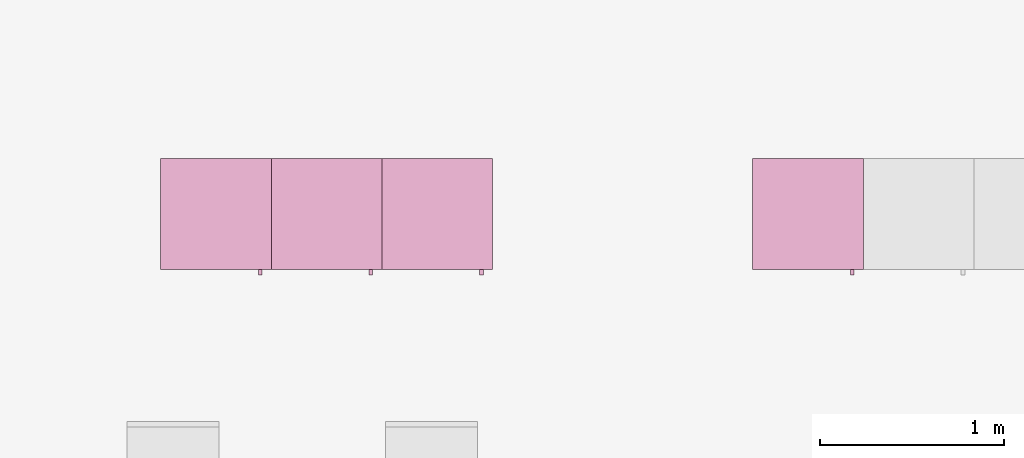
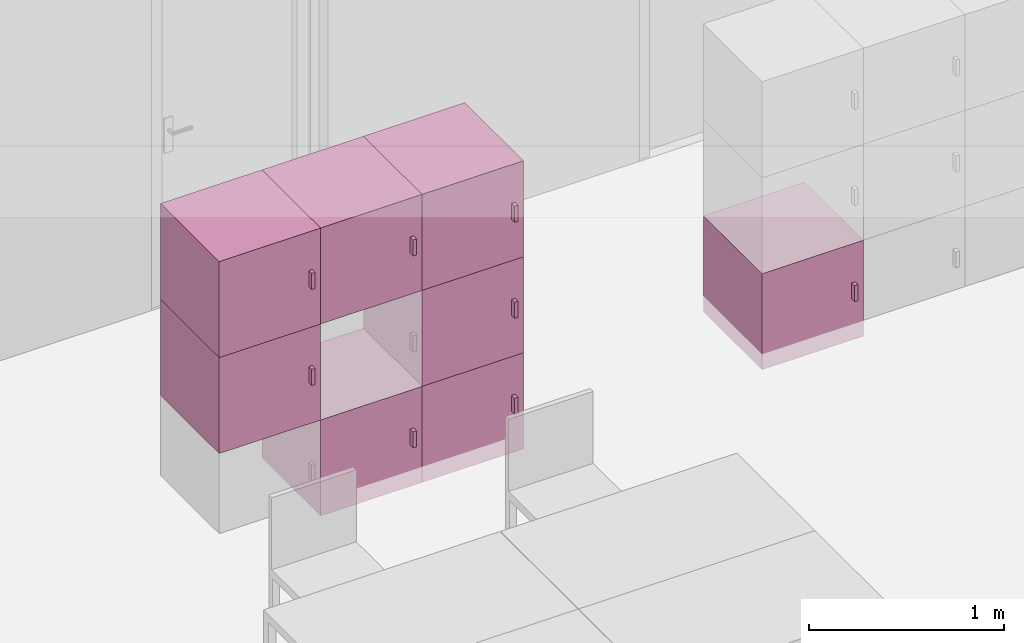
"""IFC4 building model written with IfcOpenShell, lengths in metres."""

from ifc_helpers import new_model, entity, si_unit, converted_unit, derived_unit, frame, origin, place, context, subcontext, project, spatial, faceted_brep, element, save


model = new_model("IFC4")

# Units and contexts
model_context = context("Model", 3, precision=1e-05, world=origin())
body_context = subcontext(model_context, "Body", "Model", "MODEL_VIEW")
ifc_project = project(units=[si_unit("LENGTHUNIT", "METRE"), si_unit("AREAUNIT", "SQUARE_METRE"), si_unit("VOLUMEUNIT", "CUBIC_METRE"), si_unit("MASSUNIT", "GRAM", prefix="KILO"), converted_unit("PLANEANGLEUNIT", "DEGREE", entity("IfcPlaneAngleMeasure", 0.0174532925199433), si_unit("PLANEANGLEUNIT", "RADIAN"), dimensions=[0, 0, 0, 0, 0, 0, 0]), derived_unit("THERMALTRANSMITTANCEUNIT", [(si_unit("POWERUNIT", "WATT"), 1), (si_unit("THERMODYNAMICTEMPERATUREUNIT", "KELVIN"), -1), (si_unit("LENGTHUNIT", "METRE"), -2)]), derived_unit("VOLUMETRICFLOWRATEUNIT", [(si_unit("LENGTHUNIT", "METRE"), 3), (converted_unit("TIMEUNIT", "hour", entity("IfcTimeMeasure", 3600.0), si_unit("TIMEUNIT", "SECOND"), dimensions=[0, 0, 1, 0, 0, 0, 0]), -1), (si_unit("LENGTHUNIT", "METRE"), -1)])], contexts=[model_context])

# Building, storeys
building_placement = place(None, origin())
building = spatial("IfcBuilding", under=ifc_project, at=building_placement, Name="HABITATGE PLURIFAMILIAR", CompositionType="ELEMENT")
storey_1_placement = place(building_placement, frame((0.0, 0.0, 15.28)))
storey_1 = spatial("IfcBuildingStorey", under=building, at=storey_1_placement, Name="PLANTA QUARTA", CompositionType="ELEMENT", Elevation=15.28)
storey_2_placement = place(storey_1_placement, frame((0.0, 0.0, 12.27)))
storey_2 = spatial("IfcBuildingStorey", under=storey_1, at=storey_2_placement, Name="NOU", CompositionType="PARTIAL")

# Furniture
furniture_1_placement = place(storey_2_placement, frame((405.862081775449, 21.5873137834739, -12.37)))
element("IfcFurniture", 1, at=furniture_1_placement, inside=storey_2, Name="Armai 60x60x60_P4", context=body_context, shape_type="Brep", body=[
    faceted_brep([(0.600000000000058, 0.0300000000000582, 0.02), (0.600000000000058, 0.0300000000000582, 0.0), (0.0, 0.0300000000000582, 0.0), (0.0, 0.0300000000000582, 0.02), (0.0, 0.630000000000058, 0.0), (0.0, 0.630000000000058, 0.02), (0.600000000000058, 0.630000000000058, 0.0), (0.600000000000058, 0.630000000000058, 0.02)], [[[0, 1, 2, 3]], [[3, 2, 4, 5]], [[5, 4, 6, 7]], [[7, 6, 1, 0]], [[0, 3, 5, 7]], [[1, 6, 4, 2]]], orient=[[False], [False], [False], [False], [False], [False]]),
    faceted_brep([(0.02, 0.63, 0.58), (0.02, 0.61, 0.58), (0.02, 0.61, 0.02), (0.02, 0.63, 0.02), (0.58, 0.61, 0.02), (0.58, 0.63, 0.02), (0.58, 0.61, 0.58), (0.58, 0.63, 0.58)], [[[0, 1, 2, 3]], [[3, 2, 4, 5]], [[5, 4, 6, 7]], [[7, 6, 1, 0]], [[0, 3, 5, 7]], [[1, 6, 4, 2]]], orient=[[False], [False], [False], [False], [False], [False]]),
    faceted_brep([(0.58, 0.0300000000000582, 0.58), (0.6, 0.0300000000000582, 0.58), (0.6, 0.0300000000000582, 0.02), (0.58, 0.0300000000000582, 0.02), (0.6, 0.630000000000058, 0.02), (0.58, 0.630000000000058, 0.02), (0.6, 0.630000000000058, 0.58), (0.58, 0.630000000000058, 0.58)], [[[0, 1, 2, 3]], [[3, 2, 4, 5]], [[5, 4, 6, 7]], [[7, 6, 1, 0]], [[0, 3, 5, 7]], [[1, 6, 4, 2]]], orient=[[False], [False], [False], [False], [False], [False]]),
    faceted_brep([(0.600000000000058, 0.0500000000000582, 0.58), (0.600000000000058, 0.0300000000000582, 0.58), (0.600000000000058, 0.0300000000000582, 0.02), (0.600000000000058, 0.0500000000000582, 0.02), (0.580000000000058, 0.0300000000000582, 0.02), (0.580000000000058, 0.0500000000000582, 0.02), (0.580000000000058, 0.0300000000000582, 0.58), (0.580000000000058, 0.0500000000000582, 0.58)], [[[0, 1, 2, 3]], [[3, 2, 4, 5]], [[5, 4, 6, 7]], [[7, 6, 1, 0]], [[0, 3, 5, 7]], [[1, 6, 4, 2]]], orient=[[False], [False], [False], [False], [False], [False]]),
    faceted_brep([(0.0, 0.0300000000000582, 0.58), (0.0200000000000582, 0.0300000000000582, 0.58), (0.0200000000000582, 0.0300000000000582, 0.02), (0.0, 0.0300000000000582, 0.02), (0.0200000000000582, 0.630000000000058, 0.02), (0.0, 0.630000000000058, 0.02), (0.0200000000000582, 0.630000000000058, 0.58), (0.0, 0.630000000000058, 0.58)], [[[0, 1, 2, 3]], [[3, 2, 4, 5]], [[5, 4, 6, 7]], [[7, 6, 1, 0]], [[0, 3, 5, 7]], [[1, 6, 4, 2]]], orient=[[False], [False], [False], [False], [False], [False]]),
    faceted_brep([(0.6, 0.03, 0.6), (0.6, 0.03, 0.58), (0.0, 0.03, 0.58), (0.0, 0.03, 0.6), (0.0, 0.63, 0.58), (0.0, 0.63, 0.6), (0.6, 0.63, 0.58), (0.6, 0.63, 0.6)], [[[0, 1, 2, 3]], [[3, 2, 4, 5]], [[5, 4, 6, 7]], [[7, 6, 1, 0]], [[0, 3, 5, 7]], [[1, 6, 4, 2]]], orient=[[False], [False], [False], [False], [False], [False]]),
    faceted_brep([(0.02, 0.05, 0.58), (0.02, 0.03, 0.58), (0.02, 0.03, 0.02), (0.02, 0.05, 0.02), (0.580000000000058, 0.03, 0.02), (0.580000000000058, 0.05, 0.02), (0.580000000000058, 0.03, 0.58), (0.580000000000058, 0.05, 0.58)], [[[0, 1, 2, 3]], [[3, 2, 4, 5]], [[5, 4, 6, 7]], [[7, 6, 1, 0]], [[0, 3, 5, 7]], [[1, 6, 4, 2]]], orient=[[False], [False], [False], [False], [False], [False]]),
    faceted_brep([(0.53, 0.03, 0.358064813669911), (0.53, 0.0, 0.358064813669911), (0.53, 0.0, 0.258064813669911), (0.53, 0.03, 0.258064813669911), (0.55, 0.0, 0.258064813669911), (0.55, 0.03, 0.258064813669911), (0.55, 0.0, 0.358064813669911), (0.55, 0.03, 0.358064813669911)], [[[0, 1, 2, 3]], [[3, 2, 4, 5]], [[5, 4, 6, 7]], [[7, 6, 1, 0]], [[0, 3, 5, 7]], [[1, 6, 4, 2]]], orient=[[False], [False], [False], [False], [False], [False]]),
])
furniture_2_placement = place(storey_2_placement, frame((402.652081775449, 21.5873137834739, -11.77)))
element("IfcFurniture", 2, at=furniture_2_placement, inside=storey_2, Name="Armai 60x60x60_P4", context=body_context, shape_type="Brep", body=[
    faceted_brep([(0.600000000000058, 0.0300000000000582, 0.02), (0.600000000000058, 0.0300000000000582, 0.0), (0.0, 0.0300000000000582, 0.0), (0.0, 0.0300000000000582, 0.02), (0.0, 0.630000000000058, 0.0), (0.0, 0.630000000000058, 0.02), (0.600000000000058, 0.630000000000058, 0.0), (0.600000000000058, 0.630000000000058, 0.02)], [[[0, 1, 2, 3]], [[3, 2, 4, 5]], [[5, 4, 6, 7]], [[7, 6, 1, 0]], [[0, 3, 5, 7]], [[1, 6, 4, 2]]], orient=[[False], [False], [False], [False], [False], [False]]),
    faceted_brep([(0.02, 0.63, 0.58), (0.02, 0.61, 0.58), (0.02, 0.61, 0.02), (0.02, 0.63, 0.02), (0.58, 0.61, 0.02), (0.58, 0.63, 0.02), (0.58, 0.61, 0.58), (0.58, 0.63, 0.58)], [[[0, 1, 2, 3]], [[3, 2, 4, 5]], [[5, 4, 6, 7]], [[7, 6, 1, 0]], [[0, 3, 5, 7]], [[1, 6, 4, 2]]], orient=[[False], [False], [False], [False], [False], [False]]),
    faceted_brep([(0.58, 0.0300000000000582, 0.58), (0.6, 0.0300000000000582, 0.58), (0.6, 0.0300000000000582, 0.02), (0.58, 0.0300000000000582, 0.02), (0.6, 0.630000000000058, 0.02), (0.58, 0.630000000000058, 0.02), (0.6, 0.630000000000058, 0.58), (0.58, 0.630000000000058, 0.58)], [[[0, 1, 2, 3]], [[3, 2, 4, 5]], [[5, 4, 6, 7]], [[7, 6, 1, 0]], [[0, 3, 5, 7]], [[1, 6, 4, 2]]], orient=[[False], [False], [False], [False], [False], [False]]),
    faceted_brep([(0.600000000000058, 0.0500000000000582, 0.58), (0.600000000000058, 0.0300000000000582, 0.58), (0.600000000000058, 0.0300000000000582, 0.02), (0.600000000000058, 0.0500000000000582, 0.02), (0.580000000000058, 0.0300000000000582, 0.02), (0.580000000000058, 0.0500000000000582, 0.02), (0.580000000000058, 0.0300000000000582, 0.58), (0.580000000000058, 0.0500000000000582, 0.58)], [[[0, 1, 2, 3]], [[3, 2, 4, 5]], [[5, 4, 6, 7]], [[7, 6, 1, 0]], [[0, 3, 5, 7]], [[1, 6, 4, 2]]], orient=[[False], [False], [False], [False], [False], [False]]),
    faceted_brep([(0.0, 0.0300000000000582, 0.58), (0.0200000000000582, 0.0300000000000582, 0.58), (0.0200000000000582, 0.0300000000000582, 0.02), (0.0, 0.0300000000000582, 0.02), (0.0200000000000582, 0.630000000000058, 0.02), (0.0, 0.630000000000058, 0.02), (0.0200000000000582, 0.630000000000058, 0.58), (0.0, 0.630000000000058, 0.58)], [[[0, 1, 2, 3]], [[3, 2, 4, 5]], [[5, 4, 6, 7]], [[7, 6, 1, 0]], [[0, 3, 5, 7]], [[1, 6, 4, 2]]], orient=[[False], [False], [False], [False], [False], [False]]),
    faceted_brep([(0.6, 0.03, 0.6), (0.6, 0.03, 0.58), (0.0, 0.03, 0.58), (0.0, 0.03, 0.6), (0.0, 0.63, 0.58), (0.0, 0.63, 0.6), (0.6, 0.63, 0.58), (0.6, 0.63, 0.6)], [[[0, 1, 2, 3]], [[3, 2, 4, 5]], [[5, 4, 6, 7]], [[7, 6, 1, 0]], [[0, 3, 5, 7]], [[1, 6, 4, 2]]], orient=[[False], [False], [False], [False], [False], [False]]),
    faceted_brep([(0.02, 0.05, 0.58), (0.02, 0.03, 0.58), (0.02, 0.03, 0.02), (0.02, 0.05, 0.02), (0.580000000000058, 0.03, 0.02), (0.580000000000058, 0.05, 0.02), (0.580000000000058, 0.03, 0.58), (0.580000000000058, 0.05, 0.58)], [[[0, 1, 2, 3]], [[3, 2, 4, 5]], [[5, 4, 6, 7]], [[7, 6, 1, 0]], [[0, 3, 5, 7]], [[1, 6, 4, 2]]], orient=[[False], [False], [False], [False], [False], [False]]),
    faceted_brep([(0.53, 0.03, 0.358064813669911), (0.53, 0.0, 0.358064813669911), (0.53, 0.0, 0.258064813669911), (0.53, 0.03, 0.258064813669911), (0.55, 0.0, 0.258064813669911), (0.55, 0.03, 0.258064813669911), (0.55, 0.0, 0.358064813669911), (0.55, 0.03, 0.358064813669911)], [[[0, 1, 2, 3]], [[3, 2, 4, 5]], [[5, 4, 6, 7]], [[7, 6, 1, 0]], [[0, 3, 5, 7]], [[1, 6, 4, 2]]], orient=[[False], [False], [False], [False], [False], [False]]),
])
furniture_3_placement = place(storey_2_placement, frame((403.252081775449, 21.5873137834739, -11.17)))
element("IfcFurniture", 3, at=furniture_3_placement, inside=storey_2, Name="Armai 60x60x60_P4", context=body_context, shape_type="Brep", body=[
    faceted_brep([(0.600000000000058, 0.0300000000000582, 0.02), (0.600000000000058, 0.0300000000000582, 0.0), (0.0, 0.0300000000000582, 0.0), (0.0, 0.0300000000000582, 0.02), (0.0, 0.630000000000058, 0.0), (0.0, 0.630000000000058, 0.02), (0.600000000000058, 0.630000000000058, 0.0), (0.600000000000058, 0.630000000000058, 0.02)], [[[0, 1, 2, 3]], [[3, 2, 4, 5]], [[5, 4, 6, 7]], [[7, 6, 1, 0]], [[0, 3, 5, 7]], [[1, 6, 4, 2]]], orient=[[False], [False], [False], [False], [False], [False]]),
    faceted_brep([(0.02, 0.63, 0.58), (0.02, 0.61, 0.58), (0.02, 0.61, 0.02), (0.02, 0.63, 0.02), (0.58, 0.61, 0.02), (0.58, 0.63, 0.02), (0.58, 0.61, 0.58), (0.58, 0.63, 0.58)], [[[0, 1, 2, 3]], [[3, 2, 4, 5]], [[5, 4, 6, 7]], [[7, 6, 1, 0]], [[0, 3, 5, 7]], [[1, 6, 4, 2]]], orient=[[False], [False], [False], [False], [False], [False]]),
    faceted_brep([(0.58, 0.0300000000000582, 0.58), (0.6, 0.0300000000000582, 0.58), (0.6, 0.0300000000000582, 0.02), (0.58, 0.0300000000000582, 0.02), (0.6, 0.630000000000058, 0.02), (0.58, 0.630000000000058, 0.02), (0.6, 0.630000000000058, 0.58), (0.58, 0.630000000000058, 0.58)], [[[0, 1, 2, 3]], [[3, 2, 4, 5]], [[5, 4, 6, 7]], [[7, 6, 1, 0]], [[0, 3, 5, 7]], [[1, 6, 4, 2]]], orient=[[False], [False], [False], [False], [False], [False]]),
    faceted_brep([(0.600000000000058, 0.0500000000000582, 0.58), (0.600000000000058, 0.0300000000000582, 0.58), (0.600000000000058, 0.0300000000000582, 0.02), (0.600000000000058, 0.0500000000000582, 0.02), (0.580000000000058, 0.0300000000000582, 0.02), (0.580000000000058, 0.0500000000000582, 0.02), (0.580000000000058, 0.0300000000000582, 0.58), (0.580000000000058, 0.0500000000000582, 0.58)], [[[0, 1, 2, 3]], [[3, 2, 4, 5]], [[5, 4, 6, 7]], [[7, 6, 1, 0]], [[0, 3, 5, 7]], [[1, 6, 4, 2]]], orient=[[False], [False], [False], [False], [False], [False]]),
    faceted_brep([(0.0, 0.0300000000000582, 0.58), (0.0200000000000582, 0.0300000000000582, 0.58), (0.0200000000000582, 0.0300000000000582, 0.02), (0.0, 0.0300000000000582, 0.02), (0.0200000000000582, 0.630000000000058, 0.02), (0.0, 0.630000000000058, 0.02), (0.0200000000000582, 0.630000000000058, 0.58), (0.0, 0.630000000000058, 0.58)], [[[0, 1, 2, 3]], [[3, 2, 4, 5]], [[5, 4, 6, 7]], [[7, 6, 1, 0]], [[0, 3, 5, 7]], [[1, 6, 4, 2]]], orient=[[False], [False], [False], [False], [False], [False]]),
    faceted_brep([(0.6, 0.03, 0.6), (0.6, 0.03, 0.58), (0.0, 0.03, 0.58), (0.0, 0.03, 0.6), (0.0, 0.63, 0.58), (0.0, 0.63, 0.6), (0.6, 0.63, 0.58), (0.6, 0.63, 0.6)], [[[0, 1, 2, 3]], [[3, 2, 4, 5]], [[5, 4, 6, 7]], [[7, 6, 1, 0]], [[0, 3, 5, 7]], [[1, 6, 4, 2]]], orient=[[False], [False], [False], [False], [False], [False]]),
    faceted_brep([(0.02, 0.05, 0.58), (0.02, 0.03, 0.58), (0.02, 0.03, 0.02), (0.02, 0.05, 0.02), (0.580000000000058, 0.03, 0.02), (0.580000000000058, 0.05, 0.02), (0.580000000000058, 0.03, 0.58), (0.580000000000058, 0.05, 0.58)], [[[0, 1, 2, 3]], [[3, 2, 4, 5]], [[5, 4, 6, 7]], [[7, 6, 1, 0]], [[0, 3, 5, 7]], [[1, 6, 4, 2]]], orient=[[False], [False], [False], [False], [False], [False]]),
    faceted_brep([(0.53, 0.03, 0.358064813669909), (0.53, 0.0, 0.358064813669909), (0.53, 0.0, 0.258064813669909), (0.53, 0.03, 0.258064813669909), (0.55, 0.0, 0.258064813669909), (0.55, 0.03, 0.258064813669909), (0.55, 0.0, 0.358064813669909), (0.55, 0.03, 0.358064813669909)], [[[0, 1, 2, 3]], [[3, 2, 4, 5]], [[5, 4, 6, 7]], [[7, 6, 1, 0]], [[0, 3, 5, 7]], [[1, 6, 4, 2]]], orient=[[False], [False], [False], [False], [False], [False]]),
])
furniture_4_placement = place(storey_2_placement, frame((402.652081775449, 21.5873137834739, -11.17)))
element("IfcFurniture", 4, at=furniture_4_placement, inside=storey_2, Name="Armai 60x60x60_P4", context=body_context, shape_type="Brep", body=[
    faceted_brep([(0.600000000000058, 0.0300000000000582, 0.02), (0.600000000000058, 0.0300000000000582, 0.0), (0.0, 0.0300000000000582, 0.0), (0.0, 0.0300000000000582, 0.02), (0.0, 0.630000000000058, 0.0), (0.0, 0.630000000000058, 0.02), (0.600000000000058, 0.630000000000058, 0.0), (0.600000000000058, 0.630000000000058, 0.02)], [[[0, 1, 2, 3]], [[3, 2, 4, 5]], [[5, 4, 6, 7]], [[7, 6, 1, 0]], [[0, 3, 5, 7]], [[1, 6, 4, 2]]], orient=[[False], [False], [False], [False], [False], [False]]),
    faceted_brep([(0.02, 0.63, 0.58), (0.02, 0.61, 0.58), (0.02, 0.61, 0.02), (0.02, 0.63, 0.02), (0.58, 0.61, 0.02), (0.58, 0.63, 0.02), (0.58, 0.61, 0.58), (0.58, 0.63, 0.58)], [[[0, 1, 2, 3]], [[3, 2, 4, 5]], [[5, 4, 6, 7]], [[7, 6, 1, 0]], [[0, 3, 5, 7]], [[1, 6, 4, 2]]], orient=[[False], [False], [False], [False], [False], [False]]),
    faceted_brep([(0.58, 0.0300000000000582, 0.58), (0.6, 0.0300000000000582, 0.58), (0.6, 0.0300000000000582, 0.02), (0.58, 0.0300000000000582, 0.02), (0.6, 0.630000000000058, 0.02), (0.58, 0.630000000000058, 0.02), (0.6, 0.630000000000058, 0.58), (0.58, 0.630000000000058, 0.58)], [[[0, 1, 2, 3]], [[3, 2, 4, 5]], [[5, 4, 6, 7]], [[7, 6, 1, 0]], [[0, 3, 5, 7]], [[1, 6, 4, 2]]], orient=[[False], [False], [False], [False], [False], [False]]),
    faceted_brep([(0.600000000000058, 0.0500000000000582, 0.58), (0.600000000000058, 0.0300000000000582, 0.58), (0.600000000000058, 0.0300000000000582, 0.02), (0.600000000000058, 0.0500000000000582, 0.02), (0.580000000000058, 0.0300000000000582, 0.02), (0.580000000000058, 0.0500000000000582, 0.02), (0.580000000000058, 0.0300000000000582, 0.58), (0.580000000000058, 0.0500000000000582, 0.58)], [[[0, 1, 2, 3]], [[3, 2, 4, 5]], [[5, 4, 6, 7]], [[7, 6, 1, 0]], [[0, 3, 5, 7]], [[1, 6, 4, 2]]], orient=[[False], [False], [False], [False], [False], [False]]),
    faceted_brep([(0.0, 0.0300000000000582, 0.58), (0.0200000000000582, 0.0300000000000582, 0.58), (0.0200000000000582, 0.0300000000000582, 0.02), (0.0, 0.0300000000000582, 0.02), (0.0200000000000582, 0.630000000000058, 0.02), (0.0, 0.630000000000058, 0.02), (0.0200000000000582, 0.630000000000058, 0.58), (0.0, 0.630000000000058, 0.58)], [[[0, 1, 2, 3]], [[3, 2, 4, 5]], [[5, 4, 6, 7]], [[7, 6, 1, 0]], [[0, 3, 5, 7]], [[1, 6, 4, 2]]], orient=[[False], [False], [False], [False], [False], [False]]),
    faceted_brep([(0.6, 0.03, 0.6), (0.6, 0.03, 0.58), (0.0, 0.03, 0.58), (0.0, 0.03, 0.6), (0.0, 0.63, 0.58), (0.0, 0.63, 0.6), (0.6, 0.63, 0.58), (0.6, 0.63, 0.6)], [[[0, 1, 2, 3]], [[3, 2, 4, 5]], [[5, 4, 6, 7]], [[7, 6, 1, 0]], [[0, 3, 5, 7]], [[1, 6, 4, 2]]], orient=[[False], [False], [False], [False], [False], [False]]),
    faceted_brep([(0.02, 0.05, 0.58), (0.02, 0.03, 0.58), (0.02, 0.03, 0.02), (0.02, 0.05, 0.02), (0.580000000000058, 0.03, 0.02), (0.580000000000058, 0.05, 0.02), (0.580000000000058, 0.03, 0.58), (0.580000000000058, 0.05, 0.58)], [[[0, 1, 2, 3]], [[3, 2, 4, 5]], [[5, 4, 6, 7]], [[7, 6, 1, 0]], [[0, 3, 5, 7]], [[1, 6, 4, 2]]], orient=[[False], [False], [False], [False], [False], [False]]),
    faceted_brep([(0.53, 0.03, 0.358064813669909), (0.53, 0.0, 0.358064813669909), (0.53, 0.0, 0.258064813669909), (0.53, 0.03, 0.258064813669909), (0.55, 0.0, 0.258064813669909), (0.55, 0.03, 0.258064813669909), (0.55, 0.0, 0.358064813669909), (0.55, 0.03, 0.358064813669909)], [[[0, 1, 2, 3]], [[3, 2, 4, 5]], [[5, 4, 6, 7]], [[7, 6, 1, 0]], [[0, 3, 5, 7]], [[1, 6, 4, 2]]], orient=[[False], [False], [False], [False], [False], [False]]),
])
furniture_5_placement = place(storey_2_placement, frame((403.252081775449, 21.5873137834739, -12.37)))
element("IfcFurniture", 5, at=furniture_5_placement, inside=storey_2, Name="Armai 60x60x60_P4", context=body_context, shape_type="Brep", body=[
    faceted_brep([(0.600000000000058, 0.0300000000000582, 0.02), (0.600000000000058, 0.0300000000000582, 0.0), (0.0, 0.0300000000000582, 0.0), (0.0, 0.0300000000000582, 0.02), (0.0, 0.630000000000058, 0.0), (0.0, 0.630000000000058, 0.02), (0.600000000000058, 0.630000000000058, 0.0), (0.600000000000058, 0.630000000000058, 0.02)], [[[0, 1, 2, 3]], [[3, 2, 4, 5]], [[5, 4, 6, 7]], [[7, 6, 1, 0]], [[0, 3, 5, 7]], [[1, 6, 4, 2]]], orient=[[False], [False], [False], [False], [False], [False]]),
    faceted_brep([(0.02, 0.63, 0.58), (0.02, 0.61, 0.58), (0.02, 0.61, 0.02), (0.02, 0.63, 0.02), (0.58, 0.61, 0.02), (0.58, 0.63, 0.02), (0.58, 0.61, 0.58), (0.58, 0.63, 0.58)], [[[0, 1, 2, 3]], [[3, 2, 4, 5]], [[5, 4, 6, 7]], [[7, 6, 1, 0]], [[0, 3, 5, 7]], [[1, 6, 4, 2]]], orient=[[False], [False], [False], [False], [False], [False]]),
    faceted_brep([(0.58, 0.0300000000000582, 0.58), (0.6, 0.0300000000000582, 0.58), (0.6, 0.0300000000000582, 0.02), (0.58, 0.0300000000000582, 0.02), (0.6, 0.630000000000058, 0.02), (0.58, 0.630000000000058, 0.02), (0.6, 0.630000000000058, 0.58), (0.58, 0.630000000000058, 0.58)], [[[0, 1, 2, 3]], [[3, 2, 4, 5]], [[5, 4, 6, 7]], [[7, 6, 1, 0]], [[0, 3, 5, 7]], [[1, 6, 4, 2]]], orient=[[False], [False], [False], [False], [False], [False]]),
    faceted_brep([(0.600000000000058, 0.0500000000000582, 0.58), (0.600000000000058, 0.0300000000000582, 0.58), (0.600000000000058, 0.0300000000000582, 0.02), (0.600000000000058, 0.0500000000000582, 0.02), (0.580000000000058, 0.0300000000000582, 0.02), (0.580000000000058, 0.0500000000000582, 0.02), (0.580000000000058, 0.0300000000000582, 0.58), (0.580000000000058, 0.0500000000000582, 0.58)], [[[0, 1, 2, 3]], [[3, 2, 4, 5]], [[5, 4, 6, 7]], [[7, 6, 1, 0]], [[0, 3, 5, 7]], [[1, 6, 4, 2]]], orient=[[False], [False], [False], [False], [False], [False]]),
    faceted_brep([(0.0, 0.0300000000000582, 0.58), (0.0200000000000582, 0.0300000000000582, 0.58), (0.0200000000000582, 0.0300000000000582, 0.02), (0.0, 0.0300000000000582, 0.02), (0.0200000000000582, 0.630000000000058, 0.02), (0.0, 0.630000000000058, 0.02), (0.0200000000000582, 0.630000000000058, 0.58), (0.0, 0.630000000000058, 0.58)], [[[0, 1, 2, 3]], [[3, 2, 4, 5]], [[5, 4, 6, 7]], [[7, 6, 1, 0]], [[0, 3, 5, 7]], [[1, 6, 4, 2]]], orient=[[False], [False], [False], [False], [False], [False]]),
    faceted_brep([(0.6, 0.03, 0.6), (0.6, 0.03, 0.58), (0.0, 0.03, 0.58), (0.0, 0.03, 0.6), (0.0, 0.63, 0.58), (0.0, 0.63, 0.6), (0.6, 0.63, 0.58), (0.6, 0.63, 0.6)], [[[0, 1, 2, 3]], [[3, 2, 4, 5]], [[5, 4, 6, 7]], [[7, 6, 1, 0]], [[0, 3, 5, 7]], [[1, 6, 4, 2]]], orient=[[False], [False], [False], [False], [False], [False]]),
    faceted_brep([(0.02, 0.05, 0.58), (0.02, 0.03, 0.58), (0.02, 0.03, 0.02), (0.02, 0.05, 0.02), (0.580000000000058, 0.03, 0.02), (0.580000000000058, 0.05, 0.02), (0.580000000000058, 0.03, 0.58), (0.580000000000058, 0.05, 0.58)], [[[0, 1, 2, 3]], [[3, 2, 4, 5]], [[5, 4, 6, 7]], [[7, 6, 1, 0]], [[0, 3, 5, 7]], [[1, 6, 4, 2]]], orient=[[False], [False], [False], [False], [False], [False]]),
    faceted_brep([(0.53, 0.03, 0.358064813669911), (0.53, 0.0, 0.358064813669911), (0.53, 0.0, 0.258064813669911), (0.53, 0.03, 0.258064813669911), (0.55, 0.0, 0.258064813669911), (0.55, 0.03, 0.258064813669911), (0.55, 0.0, 0.358064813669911), (0.55, 0.03, 0.358064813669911)], [[[0, 1, 2, 3]], [[3, 2, 4, 5]], [[5, 4, 6, 7]], [[7, 6, 1, 0]], [[0, 3, 5, 7]], [[1, 6, 4, 2]]], orient=[[False], [False], [False], [False], [False], [False]]),
])
furniture_6_placement = place(storey_2_placement, frame((403.852081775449, 21.5873137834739, -12.37)))
element("IfcFurniture", 6, at=furniture_6_placement, inside=storey_2, Name="Armai 60x60x60_P4", context=body_context, shape_type="Brep", body=[
    faceted_brep([(0.600000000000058, 0.0300000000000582, 0.02), (0.600000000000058, 0.0300000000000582, 0.0), (0.0, 0.0300000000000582, 0.0), (0.0, 0.0300000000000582, 0.02), (0.0, 0.630000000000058, 0.0), (0.0, 0.630000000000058, 0.02), (0.600000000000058, 0.630000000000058, 0.0), (0.600000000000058, 0.630000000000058, 0.02)], [[[0, 1, 2, 3]], [[3, 2, 4, 5]], [[5, 4, 6, 7]], [[7, 6, 1, 0]], [[0, 3, 5, 7]], [[1, 6, 4, 2]]], orient=[[False], [False], [False], [False], [False], [False]]),
    faceted_brep([(0.02, 0.63, 0.58), (0.02, 0.61, 0.58), (0.02, 0.61, 0.02), (0.02, 0.63, 0.02), (0.58, 0.61, 0.02), (0.58, 0.63, 0.02), (0.58, 0.61, 0.58), (0.58, 0.63, 0.58)], [[[0, 1, 2, 3]], [[3, 2, 4, 5]], [[5, 4, 6, 7]], [[7, 6, 1, 0]], [[0, 3, 5, 7]], [[1, 6, 4, 2]]], orient=[[False], [False], [False], [False], [False], [False]]),
    faceted_brep([(0.58, 0.0300000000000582, 0.58), (0.6, 0.0300000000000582, 0.58), (0.6, 0.0300000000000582, 0.02), (0.58, 0.0300000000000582, 0.02), (0.6, 0.630000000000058, 0.02), (0.58, 0.630000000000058, 0.02), (0.6, 0.630000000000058, 0.58), (0.58, 0.630000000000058, 0.58)], [[[0, 1, 2, 3]], [[3, 2, 4, 5]], [[5, 4, 6, 7]], [[7, 6, 1, 0]], [[0, 3, 5, 7]], [[1, 6, 4, 2]]], orient=[[False], [False], [False], [False], [False], [False]]),
    faceted_brep([(0.600000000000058, 0.0500000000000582, 0.58), (0.600000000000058, 0.0300000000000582, 0.58), (0.600000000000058, 0.0300000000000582, 0.02), (0.600000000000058, 0.0500000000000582, 0.02), (0.580000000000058, 0.0300000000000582, 0.02), (0.580000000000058, 0.0500000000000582, 0.02), (0.580000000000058, 0.0300000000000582, 0.58), (0.580000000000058, 0.0500000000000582, 0.58)], [[[0, 1, 2, 3]], [[3, 2, 4, 5]], [[5, 4, 6, 7]], [[7, 6, 1, 0]], [[0, 3, 5, 7]], [[1, 6, 4, 2]]], orient=[[False], [False], [False], [False], [False], [False]]),
    faceted_brep([(0.0, 0.0300000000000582, 0.58), (0.0200000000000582, 0.0300000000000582, 0.58), (0.0200000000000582, 0.0300000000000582, 0.02), (0.0, 0.0300000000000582, 0.02), (0.0200000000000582, 0.630000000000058, 0.02), (0.0, 0.630000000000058, 0.02), (0.0200000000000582, 0.630000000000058, 0.58), (0.0, 0.630000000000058, 0.58)], [[[0, 1, 2, 3]], [[3, 2, 4, 5]], [[5, 4, 6, 7]], [[7, 6, 1, 0]], [[0, 3, 5, 7]], [[1, 6, 4, 2]]], orient=[[False], [False], [False], [False], [False], [False]]),
    faceted_brep([(0.6, 0.03, 0.6), (0.6, 0.03, 0.58), (0.0, 0.03, 0.58), (0.0, 0.03, 0.6), (0.0, 0.63, 0.58), (0.0, 0.63, 0.6), (0.6, 0.63, 0.58), (0.6, 0.63, 0.6)], [[[0, 1, 2, 3]], [[3, 2, 4, 5]], [[5, 4, 6, 7]], [[7, 6, 1, 0]], [[0, 3, 5, 7]], [[1, 6, 4, 2]]], orient=[[False], [False], [False], [False], [False], [False]]),
    faceted_brep([(0.02, 0.05, 0.58), (0.02, 0.03, 0.58), (0.02, 0.03, 0.02), (0.02, 0.05, 0.02), (0.580000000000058, 0.03, 0.02), (0.580000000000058, 0.05, 0.02), (0.580000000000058, 0.03, 0.58), (0.580000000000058, 0.05, 0.58)], [[[0, 1, 2, 3]], [[3, 2, 4, 5]], [[5, 4, 6, 7]], [[7, 6, 1, 0]], [[0, 3, 5, 7]], [[1, 6, 4, 2]]], orient=[[False], [False], [False], [False], [False], [False]]),
    faceted_brep([(0.53, 0.03, 0.358064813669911), (0.53, 0.0, 0.358064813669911), (0.53, 0.0, 0.258064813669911), (0.53, 0.03, 0.258064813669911), (0.55, 0.0, 0.258064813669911), (0.55, 0.03, 0.258064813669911), (0.55, 0.0, 0.358064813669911), (0.55, 0.03, 0.358064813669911)], [[[0, 1, 2, 3]], [[3, 2, 4, 5]], [[5, 4, 6, 7]], [[7, 6, 1, 0]], [[0, 3, 5, 7]], [[1, 6, 4, 2]]], orient=[[False], [False], [False], [False], [False], [False]]),
])
furniture_7_placement = place(storey_2_placement, frame((403.852081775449, 21.5873137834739, -11.77)))
element("IfcFurniture", 7, at=furniture_7_placement, inside=storey_2, Name="Armai 60x60x60_P4", context=body_context, shape_type="Brep", body=[
    faceted_brep([(0.600000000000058, 0.0300000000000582, 0.02), (0.600000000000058, 0.0300000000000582, 0.0), (0.0, 0.0300000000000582, 0.0), (0.0, 0.0300000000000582, 0.02), (0.0, 0.630000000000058, 0.0), (0.0, 0.630000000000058, 0.02), (0.600000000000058, 0.630000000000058, 0.0), (0.600000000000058, 0.630000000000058, 0.02)], [[[0, 1, 2, 3]], [[3, 2, 4, 5]], [[5, 4, 6, 7]], [[7, 6, 1, 0]], [[0, 3, 5, 7]], [[1, 6, 4, 2]]], orient=[[False], [False], [False], [False], [False], [False]]),
    faceted_brep([(0.02, 0.63, 0.58), (0.02, 0.61, 0.58), (0.02, 0.61, 0.02), (0.02, 0.63, 0.02), (0.58, 0.61, 0.02), (0.58, 0.63, 0.02), (0.58, 0.61, 0.58), (0.58, 0.63, 0.58)], [[[0, 1, 2, 3]], [[3, 2, 4, 5]], [[5, 4, 6, 7]], [[7, 6, 1, 0]], [[0, 3, 5, 7]], [[1, 6, 4, 2]]], orient=[[False], [False], [False], [False], [False], [False]]),
    faceted_brep([(0.58, 0.0300000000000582, 0.58), (0.6, 0.0300000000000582, 0.58), (0.6, 0.0300000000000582, 0.02), (0.58, 0.0300000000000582, 0.02), (0.6, 0.630000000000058, 0.02), (0.58, 0.630000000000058, 0.02), (0.6, 0.630000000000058, 0.58), (0.58, 0.630000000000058, 0.58)], [[[0, 1, 2, 3]], [[3, 2, 4, 5]], [[5, 4, 6, 7]], [[7, 6, 1, 0]], [[0, 3, 5, 7]], [[1, 6, 4, 2]]], orient=[[False], [False], [False], [False], [False], [False]]),
    faceted_brep([(0.600000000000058, 0.0500000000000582, 0.58), (0.600000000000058, 0.0300000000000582, 0.58), (0.600000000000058, 0.0300000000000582, 0.02), (0.600000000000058, 0.0500000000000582, 0.02), (0.580000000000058, 0.0300000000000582, 0.02), (0.580000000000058, 0.0500000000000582, 0.02), (0.580000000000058, 0.0300000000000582, 0.58), (0.580000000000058, 0.0500000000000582, 0.58)], [[[0, 1, 2, 3]], [[3, 2, 4, 5]], [[5, 4, 6, 7]], [[7, 6, 1, 0]], [[0, 3, 5, 7]], [[1, 6, 4, 2]]], orient=[[False], [False], [False], [False], [False], [False]]),
    faceted_brep([(0.0, 0.0300000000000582, 0.58), (0.0200000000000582, 0.0300000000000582, 0.58), (0.0200000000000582, 0.0300000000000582, 0.02), (0.0, 0.0300000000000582, 0.02), (0.0200000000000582, 0.630000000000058, 0.02), (0.0, 0.630000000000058, 0.02), (0.0200000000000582, 0.630000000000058, 0.58), (0.0, 0.630000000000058, 0.58)], [[[0, 1, 2, 3]], [[3, 2, 4, 5]], [[5, 4, 6, 7]], [[7, 6, 1, 0]], [[0, 3, 5, 7]], [[1, 6, 4, 2]]], orient=[[False], [False], [False], [False], [False], [False]]),
    faceted_brep([(0.6, 0.03, 0.6), (0.6, 0.03, 0.58), (0.0, 0.03, 0.58), (0.0, 0.03, 0.6), (0.0, 0.63, 0.58), (0.0, 0.63, 0.6), (0.6, 0.63, 0.58), (0.6, 0.63, 0.6)], [[[0, 1, 2, 3]], [[3, 2, 4, 5]], [[5, 4, 6, 7]], [[7, 6, 1, 0]], [[0, 3, 5, 7]], [[1, 6, 4, 2]]], orient=[[False], [False], [False], [False], [False], [False]]),
    faceted_brep([(0.02, 0.05, 0.58), (0.02, 0.03, 0.58), (0.02, 0.03, 0.02), (0.02, 0.05, 0.02), (0.580000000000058, 0.03, 0.02), (0.580000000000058, 0.05, 0.02), (0.580000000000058, 0.03, 0.58), (0.580000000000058, 0.05, 0.58)], [[[0, 1, 2, 3]], [[3, 2, 4, 5]], [[5, 4, 6, 7]], [[7, 6, 1, 0]], [[0, 3, 5, 7]], [[1, 6, 4, 2]]], orient=[[False], [False], [False], [False], [False], [False]]),
    faceted_brep([(0.53, 0.03, 0.358064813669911), (0.53, 0.0, 0.358064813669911), (0.53, 0.0, 0.258064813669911), (0.53, 0.03, 0.258064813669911), (0.55, 0.0, 0.258064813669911), (0.55, 0.03, 0.258064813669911), (0.55, 0.0, 0.358064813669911), (0.55, 0.03, 0.358064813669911)], [[[0, 1, 2, 3]], [[3, 2, 4, 5]], [[5, 4, 6, 7]], [[7, 6, 1, 0]], [[0, 3, 5, 7]], [[1, 6, 4, 2]]], orient=[[False], [False], [False], [False], [False], [False]]),
])
furniture_8_placement = place(storey_2_placement, frame((403.852081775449, 21.5873137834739, -11.17)))
element("IfcFurniture", 8, at=furniture_8_placement, inside=storey_2, Name="Armai 60x60x60_P4", context=body_context, shape_type="Brep", body=[
    faceted_brep([(0.600000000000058, 0.0300000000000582, 0.02), (0.600000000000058, 0.0300000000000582, 0.0), (0.0, 0.0300000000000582, 0.0), (0.0, 0.0300000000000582, 0.02), (0.0, 0.630000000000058, 0.0), (0.0, 0.630000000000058, 0.02), (0.600000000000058, 0.630000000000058, 0.0), (0.600000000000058, 0.630000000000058, 0.02)], [[[0, 1, 2, 3]], [[3, 2, 4, 5]], [[5, 4, 6, 7]], [[7, 6, 1, 0]], [[0, 3, 5, 7]], [[1, 6, 4, 2]]], orient=[[False], [False], [False], [False], [False], [False]]),
    faceted_brep([(0.02, 0.63, 0.58), (0.02, 0.61, 0.58), (0.02, 0.61, 0.02), (0.02, 0.63, 0.02), (0.58, 0.61, 0.02), (0.58, 0.63, 0.02), (0.58, 0.61, 0.58), (0.58, 0.63, 0.58)], [[[0, 1, 2, 3]], [[3, 2, 4, 5]], [[5, 4, 6, 7]], [[7, 6, 1, 0]], [[0, 3, 5, 7]], [[1, 6, 4, 2]]], orient=[[False], [False], [False], [False], [False], [False]]),
    faceted_brep([(0.58, 0.0300000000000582, 0.58), (0.6, 0.0300000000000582, 0.58), (0.6, 0.0300000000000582, 0.02), (0.58, 0.0300000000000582, 0.02), (0.6, 0.630000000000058, 0.02), (0.58, 0.630000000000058, 0.02), (0.6, 0.630000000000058, 0.58), (0.58, 0.630000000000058, 0.58)], [[[0, 1, 2, 3]], [[3, 2, 4, 5]], [[5, 4, 6, 7]], [[7, 6, 1, 0]], [[0, 3, 5, 7]], [[1, 6, 4, 2]]], orient=[[False], [False], [False], [False], [False], [False]]),
    faceted_brep([(0.600000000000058, 0.0500000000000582, 0.58), (0.600000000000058, 0.0300000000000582, 0.58), (0.600000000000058, 0.0300000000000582, 0.02), (0.600000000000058, 0.0500000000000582, 0.02), (0.580000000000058, 0.0300000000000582, 0.02), (0.580000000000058, 0.0500000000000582, 0.02), (0.580000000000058, 0.0300000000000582, 0.58), (0.580000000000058, 0.0500000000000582, 0.58)], [[[0, 1, 2, 3]], [[3, 2, 4, 5]], [[5, 4, 6, 7]], [[7, 6, 1, 0]], [[0, 3, 5, 7]], [[1, 6, 4, 2]]], orient=[[False], [False], [False], [False], [False], [False]]),
    faceted_brep([(0.0, 0.0300000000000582, 0.58), (0.0200000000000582, 0.0300000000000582, 0.58), (0.0200000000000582, 0.0300000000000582, 0.02), (0.0, 0.0300000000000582, 0.02), (0.0200000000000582, 0.630000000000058, 0.02), (0.0, 0.630000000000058, 0.02), (0.0200000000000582, 0.630000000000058, 0.58), (0.0, 0.630000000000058, 0.58)], [[[0, 1, 2, 3]], [[3, 2, 4, 5]], [[5, 4, 6, 7]], [[7, 6, 1, 0]], [[0, 3, 5, 7]], [[1, 6, 4, 2]]], orient=[[False], [False], [False], [False], [False], [False]]),
    faceted_brep([(0.6, 0.03, 0.6), (0.6, 0.03, 0.58), (0.0, 0.03, 0.58), (0.0, 0.03, 0.6), (0.0, 0.63, 0.58), (0.0, 0.63, 0.6), (0.6, 0.63, 0.58), (0.6, 0.63, 0.6)], [[[0, 1, 2, 3]], [[3, 2, 4, 5]], [[5, 4, 6, 7]], [[7, 6, 1, 0]], [[0, 3, 5, 7]], [[1, 6, 4, 2]]], orient=[[False], [False], [False], [False], [False], [False]]),
    faceted_brep([(0.02, 0.05, 0.58), (0.02, 0.03, 0.58), (0.02, 0.03, 0.02), (0.02, 0.05, 0.02), (0.580000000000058, 0.03, 0.02), (0.580000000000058, 0.05, 0.02), (0.580000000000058, 0.03, 0.58), (0.580000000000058, 0.05, 0.58)], [[[0, 1, 2, 3]], [[3, 2, 4, 5]], [[5, 4, 6, 7]], [[7, 6, 1, 0]], [[0, 3, 5, 7]], [[1, 6, 4, 2]]], orient=[[False], [False], [False], [False], [False], [False]]),
    faceted_brep([(0.53, 0.03, 0.358064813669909), (0.53, 0.0, 0.358064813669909), (0.53, 0.0, 0.258064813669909), (0.53, 0.03, 0.258064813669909), (0.55, 0.0, 0.258064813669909), (0.55, 0.03, 0.258064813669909), (0.55, 0.0, 0.358064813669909), (0.55, 0.03, 0.358064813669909)], [[[0, 1, 2, 3]], [[3, 2, 4, 5]], [[5, 4, 6, 7]], [[7, 6, 1, 0]], [[0, 3, 5, 7]], [[1, 6, 4, 2]]], orient=[[False], [False], [False], [False], [False], [False]]),
])

save(model, "model.ifc")
